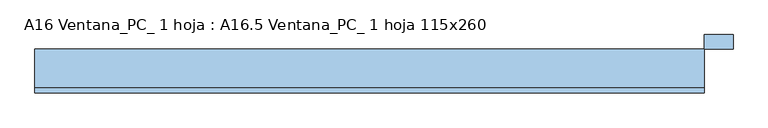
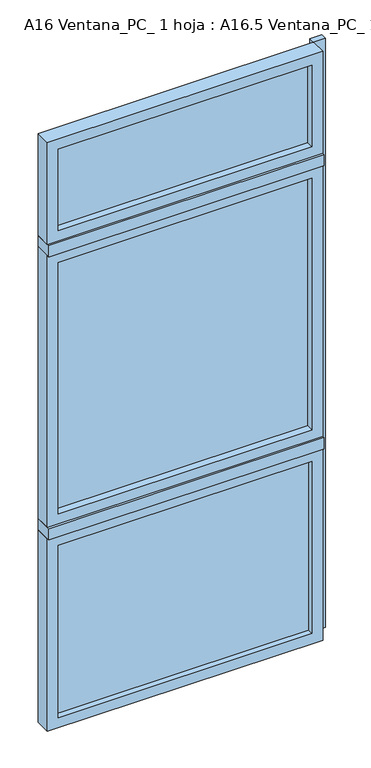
"""IFC4 building model written with IfcOpenShell, lengths in millimetres: window geometry, A16 Ventana_PC_ 1 hoja : A16.5 Ventana_PC_ 1 hoja 115x260."""

from ifc_helpers import new_model, si_unit, frame, origin, origin_with_axes, place, context, project, spatial, polyline, outline, extrude, source, transform, mapped, element, save


def a16_ventana_pc_1_hoja_a16_5_ventana_pc_1_hoja_115x260_5fdb9e7e(model_context):
    return source(origin(), model_context, "Body", "SweptSolid", [
        extrude(outline(polyline([(530.0, -37.5), (530.0, -53.5), (-530.0, -53.5), (-530.0, -37.5), (530.0, -37.5)])), frame((0.0, 0.0, 45.0), z_axis=(0.0, 0.0, 1.0), x_axis=(1.0, 0.0, 0.0)), (0.0, 0.0, 1.0), 760.0),
        extrude(outline(polyline([(530.0, -42.5), (530.0, -48.5), (-530.0, -48.5), (-530.0, -42.5), (530.0, -42.5)])), frame((0.0, 0.0, 945.0), z_axis=(0.0, 0.0, 1.0), x_axis=(1.0, 0.0, 0.0)), (0.0, 0.0, 1.0), 1110.0),
        extrude(outline(polyline([(530.0, -42.5), (530.0, -48.5), (-530.0, -48.5), (-530.0, -42.5), (530.0, -42.5)])), frame((0.0, 0.0, 2195.0), z_axis=(0.0, 0.0, 1.0), x_axis=(1.0, 0.0, 0.0)), (0.0, 0.0, 1.0), 360.0),
        extrude(outline(polyline([(850.0, -575.0), (0.0, -575.0), (0.0, 575.0), (850.0, 575.0), (850.0, -575.0)]), holes=[polyline([(805.0, -530.0), (805.0, 530.0), (45.0, 530.0), (45.0, -530.0), (805.0, -530.0)])]), frame((0.0, -78.5, 0.0), z_axis=(0.0, 1.0, 0.0), x_axis=(0.0, 0.0, 1.0)), (0.0, 0.0, 1.0), 66.0),
        extrude(outline(polyline([(2100.0, -575.0), (900.0, -575.0), (900.0, 575.0), (2100.0, 575.0), (2100.0, -575.0)]), holes=[polyline([(2055.0, -530.0), (2055.0, 530.0), (945.0, 530.0), (945.0, -530.0), (2055.0, -530.0)])]), frame((0.0, -78.5, 0.0), z_axis=(0.0, 1.0, 0.0), x_axis=(0.0, 0.0, 1.0)), (0.0, 0.0, 1.0), 66.0),
        extrude(outline(polyline([(2600.0, -575.0), (2150.0, -575.0), (2150.0, 575.0), (2600.0, 575.0), (2600.0, -575.0)]), holes=[polyline([(2555.0, -530.0), (2555.0, 530.0), (2195.0, 530.0), (2195.0, -530.0), (2555.0, -530.0)])]), frame((0.0, -78.5, 0.0), z_axis=(0.0, 1.0, 0.0), x_axis=(0.0, 0.0, 1.0)), (0.0, 0.0, 1.0), 66.0),
        extrude(outline(polyline([(575.0, -12.5), (575.0, -87.5), (-575.0, -87.5), (-575.0, -12.5), (575.0, -12.5)])), frame((0.0, 0.0, 2100.0), z_axis=(0.0, 0.0, 1.0), x_axis=(1.0, 0.0, 0.0)), (0.0, 0.0, 1.0), 50.0),
        extrude(outline(polyline([(575.0, -12.5), (575.0, -87.5), (-575.0, -87.5), (-575.0, -12.5), (575.0, -12.5)])), frame((0.0, 0.0, 850.0), z_axis=(0.0, 0.0, 1.0), x_axis=(1.0, 0.0, 0.0)), (0.0, 0.0, 1.0), 50.0),
        extrude(outline(polyline([(625.0, 12.5), (625.0, -12.5), (575.0, -12.5), (575.0, 12.5), (625.0, 12.5)])), origin_with_axes(), (0.0, 0.0, 1.0), 2600.0),
    ])


if __name__ == "__main__":
    model = new_model("IFC4")
    model_context = context("Model", 3, world=origin())
    ifc_project = project(units=[si_unit("LENGTHUNIT", "METRE", prefix="MILLI")], contexts=[model_context])
    site = spatial("IfcSite", under=ifc_project)
    building = spatial("IfcBuilding", under=site)
    placement = place(None, origin())
    a16_ventana_pc_1_hoja_a16_5_ventana_pc_1_hoja_115x260_shape = a16_ventana_pc_1_hoja_a16_5_ventana_pc_1_hoja_115x260_5fdb9e7e(model_context)
    element("IfcWindow", 1, ObjectType="A16 Ventana_PC_ 1 hoja : A16.5 Ventana_PC_ 1 hoja 115x260", at=placement, inside=building, context=model_context, shape_type="MappedRepresentation", body=[
        mapped(a16_ventana_pc_1_hoja_a16_5_ventana_pc_1_hoja_115x260_shape, transform((0.0, 0.0, 0.0), x_axis=(1.0, 0.0, 0.0), y_axis=(0.0, 1.0, 0.0), z_axis=(0.0, 0.0, 1.0))),
    ])
    save(model, "model.ifc")
